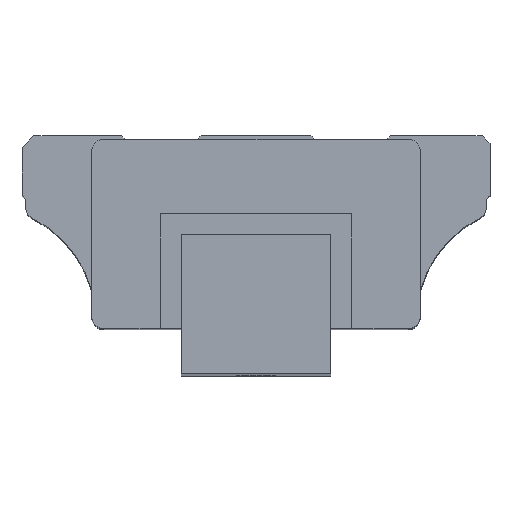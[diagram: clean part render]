
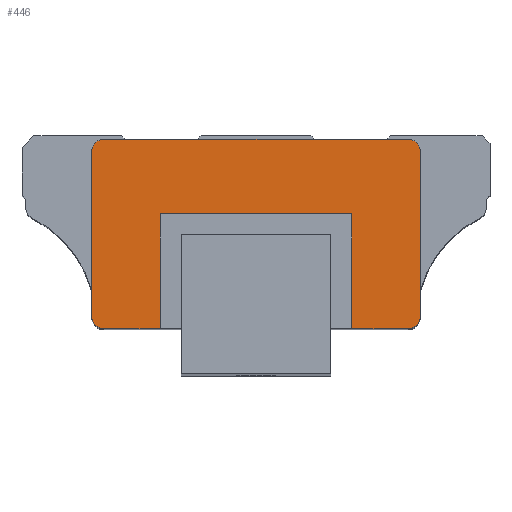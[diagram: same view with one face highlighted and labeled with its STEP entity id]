
A CAD part, top view. The second image highlights one B-rep face of the part: STEP entity #446.
In plain terms, the highlighted planar face has unit normal (0, 0, 1).
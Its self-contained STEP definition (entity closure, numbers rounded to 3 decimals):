
#446 = ADVANCED_FACE( '', ( #725 ), #726, .T. );
#725 = FACE_OUTER_BOUND( '', #1004, .T. );
#726 = PLANE( '', #1005 );
#1004 = EDGE_LOOP( '', ( #2055, #2056, #2057, #2058, #2059, #2060, #2061, #2062, #2063, #2064, #2065, #2066 ) );
#1005 = AXIS2_PLACEMENT_3D( '', #2067, #2068, #2069 );
#2055 = ORIENTED_EDGE( '', *, *, #2401, .F. );
#2056 = ORIENTED_EDGE( '', *, *, #2425, .F. );
#2057 = ORIENTED_EDGE( '', *, *, #2422, .F. );
#2058 = ORIENTED_EDGE( '', *, *, #2419, .F. );
#2059 = ORIENTED_EDGE( '', *, *, #2416, .F. );
#2060 = ORIENTED_EDGE( '', *, *, #2413, .F. );
#2061 = ORIENTED_EDGE( '', *, *, #2386, .F. );
#2062 = ORIENTED_EDGE( '', *, *, #2383, .F. );
#2063 = ORIENTED_EDGE( '', *, *, #2379, .F. );
#2064 = ORIENTED_EDGE( '', *, *, #2411, .F. );
#2065 = ORIENTED_EDGE( '', *, *, #2408, .F. );
#2066 = ORIENTED_EDGE( '', *, *, #2405, .F. );
#2067 = CARTESIAN_POINT( '', ( 7.5, 15.184, 113. ) );
#2068 = DIRECTION( '', ( 0., 0., 1. ) );
#2069 = DIRECTION( '', ( 1., 0., 0. ) );
#2379 = EDGE_CURVE( '', #2915, #2916, #2917, .T. );
#2383 = EDGE_CURVE( '', #2916, #2923, #2924, .T. );
#2386 = EDGE_CURVE( '', #2923, #2928, #2929, .T. );
#2401 = EDGE_CURVE( '', #2953, #2954, #2955, .T. );
#2405 = EDGE_CURVE( '', #2954, #2961, #2962, .T. );
#2408 = EDGE_CURVE( '', #2961, #2966, #2967, .T. );
#2411 = EDGE_CURVE( '', #2966, #2915, #2971, .T. );
#2413 = EDGE_CURVE( '', #2928, #2973, #2974, .T. );
#2416 = EDGE_CURVE( '', #2973, #2978, #2979, .T. );
#2419 = EDGE_CURVE( '', #2978, #2983, #2984, .T. );
#2422 = EDGE_CURVE( '', #2983, #2988, #2989, .T. );
#2425 = EDGE_CURVE( '', #2988, #2953, #2993, .T. );
#2915 = VERTEX_POINT( '', #3895 );
#2916 = VERTEX_POINT( '', #3896 );
#2917 = LINE( '', #3897, #3898 );
#2923 = VERTEX_POINT( '', #3907 );
#2924 = LINE( '', #3908, #3909 );
#2928 = VERTEX_POINT( '', #3915 );
#2929 = LINE( '', #3916, #3917 );
#2953 = VERTEX_POINT( '', #3955 );
#2954 = VERTEX_POINT( '', #3956 );
#2955 = CIRCLE( '', #3957, 1.2 );
#2961 = VERTEX_POINT( '', #3965 );
#2962 = LINE( '', #3966, #3967 );
#2966 = VERTEX_POINT( '', #3973 );
#2967 = CIRCLE( '', #3974, 1.2 );
#2971 = LINE( '', #3979, #3980 );
#2973 = VERTEX_POINT( '', #3983 );
#2974 = LINE( '', #3984, #3985 );
#2978 = VERTEX_POINT( '', #3991 );
#2979 = CIRCLE( '', #3992, 1.2 );
#2983 = VERTEX_POINT( '', #3997 );
#2984 = LINE( '', #3998, #3999 );
#2988 = VERTEX_POINT( '', #4005 );
#2989 = CIRCLE( '', #4006, 1.2 );
#2993 = LINE( '', #4011, #4012 );
#3895 = CARTESIAN_POINT( '', ( 17.12, 4.6, 113. ) );
#3896 = CARTESIAN_POINT( '', ( 17.12, 16.12, 113. ) );
#3897 = CARTESIAN_POINT( '', ( 17.12, 4.6, 113. ) );
#3898 = VECTOR( '', #4449, 1. );
#3907 = CARTESIAN_POINT( '', ( -2.12, 16.12, 113. ) );
#3908 = CARTESIAN_POINT( '', ( 17.12, 16.12, 113. ) );
#3909 = VECTOR( '', #4453, 1. );
#3915 = CARTESIAN_POINT( '', ( -2.12, 4.6, 113. ) );
#3916 = CARTESIAN_POINT( '', ( -2.12, 4.6, 113. ) );
#3917 = VECTOR( '', #4456, 1. );
#3955 = CARTESIAN_POINT( '', ( 22.8, 23.6, 113. ) );
#3956 = CARTESIAN_POINT( '', ( 24., 22.4, 113. ) );
#3957 = AXIS2_PLACEMENT_3D( '', #4471, #4472, #4473 );
#3965 = CARTESIAN_POINT( '', ( 24., 5.8, 113. ) );
#3966 = CARTESIAN_POINT( '', ( 24., 22.4, 113. ) );
#3967 = VECTOR( '', #4479, 1. );
#3973 = CARTESIAN_POINT( '', ( 22.8, 4.6, 113. ) );
#3974 = AXIS2_PLACEMENT_3D( '', #4482, #4483, #4484 );
#3979 = CARTESIAN_POINT( '', ( 22.8, 4.6, 113. ) );
#3980 = VECTOR( '', #4489, 1. );
#3983 = CARTESIAN_POINT( '', ( -7.8, 4.6, 113. ) );
#3984 = CARTESIAN_POINT( '', ( -2.12, 4.6, 113. ) );
#3985 = VECTOR( '', #4491, 1. );
#3991 = CARTESIAN_POINT( '', ( -9., 5.8, 113. ) );
#3992 = AXIS2_PLACEMENT_3D( '', #4494, #4495, #4496 );
#3997 = CARTESIAN_POINT( '', ( -9., 22.4, 113. ) );
#3998 = CARTESIAN_POINT( '', ( -9., 22.4, 113. ) );
#3999 = VECTOR( '', #4501, 1. );
#4005 = CARTESIAN_POINT( '', ( -7.8, 23.6, 113. ) );
#4006 = AXIS2_PLACEMENT_3D( '', #4504, #4505, #4506 );
#4011 = CARTESIAN_POINT( '', ( -7.8, 23.6, 113. ) );
#4012 = VECTOR( '', #4511, 1. );
#4449 = DIRECTION( '', ( 0., 1., 0. ) );
#4453 = DIRECTION( '', ( -1., 0., 0. ) );
#4456 = DIRECTION( '', ( 0., -1., 0. ) );
#4471 = CARTESIAN_POINT( '', ( 22.8, 22.4, 113. ) );
#4472 = DIRECTION( '', ( 0., 0., -1. ) );
#4473 = DIRECTION( '', ( 1., 0., 0. ) );
#4479 = DIRECTION( '', ( 0., -1., 0. ) );
#4482 = CARTESIAN_POINT( '', ( 22.8, 5.8, 113. ) );
#4483 = DIRECTION( '', ( 0., 0., -1. ) );
#4484 = DIRECTION( '', ( 1., 0., 0. ) );
#4489 = DIRECTION( '', ( -1., 0., 0. ) );
#4491 = DIRECTION( '', ( -1., 0., 0. ) );
#4494 = CARTESIAN_POINT( '', ( -7.8, 5.8, 113. ) );
#4495 = DIRECTION( '', ( 0., 0., -1. ) );
#4496 = DIRECTION( '', ( 1., 0., 0. ) );
#4501 = DIRECTION( '', ( 0., 1., 0. ) );
#4504 = CARTESIAN_POINT( '', ( -7.8, 22.4, 113. ) );
#4505 = DIRECTION( '', ( 0., 0., -1. ) );
#4506 = DIRECTION( '', ( 1., 0., 0. ) );
#4511 = DIRECTION( '', ( 1., 0., 0. ) );
